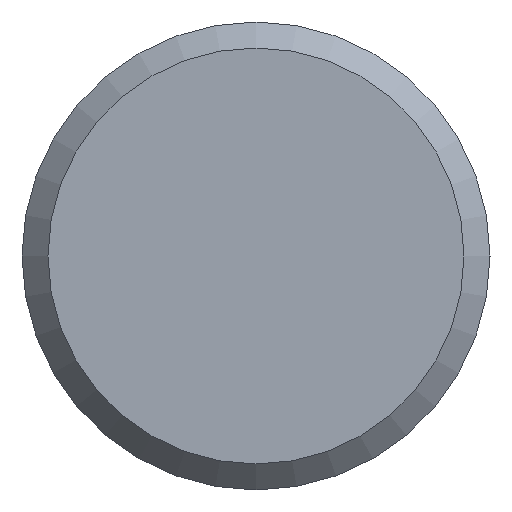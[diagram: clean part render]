
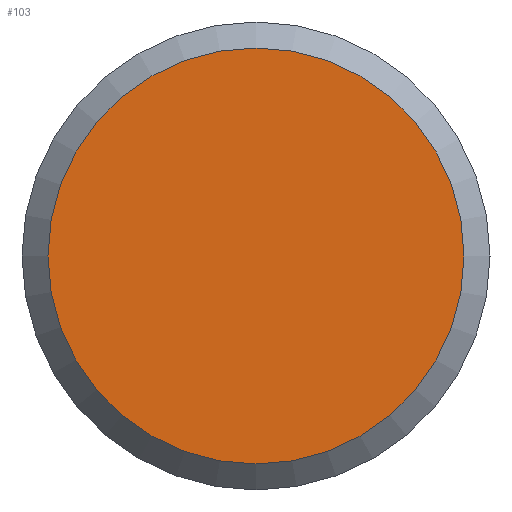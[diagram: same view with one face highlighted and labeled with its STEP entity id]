
A CAD part, left-side view. The second image highlights one B-rep face of the part: STEP entity #103.
In plain terms, the highlighted planar face has unit normal (-1, 0, 0).
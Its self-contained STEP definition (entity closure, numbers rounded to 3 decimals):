
#16=PLANE('',#138);
#30=FACE_OUTER_BOUND('',#36,.T.);
#36=EDGE_LOOP('',(#89));
#45=CIRCLE('',#137,8.);
#53=VERTEX_POINT('',#197);
#65=EDGE_CURVE('',#53,#53,#45,.T.);
#89=ORIENTED_EDGE('',*,*,#65,.F.);
#103=ADVANCED_FACE('',(#30),#16,.F.);
#137=AXIS2_PLACEMENT_3D('',#199,#170,#171);
#138=AXIS2_PLACEMENT_3D('',#200,#172,#173);
#170=DIRECTION('center_axis',(1.,0.,0.));
#171=DIRECTION('ref_axis',(0.,-1.,0.));
#172=DIRECTION('center_axis',(1.,0.,0.));
#173=DIRECTION('ref_axis',(0.,0.,-1.));
#197=CARTESIAN_POINT('',(0.,8.,0.));
#199=CARTESIAN_POINT('Origin',(0.,0.,0.));
#200=CARTESIAN_POINT('Origin',(0.,0.,0.));
